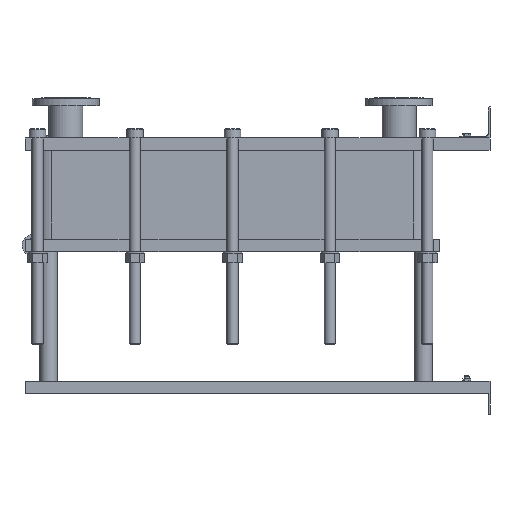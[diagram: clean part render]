
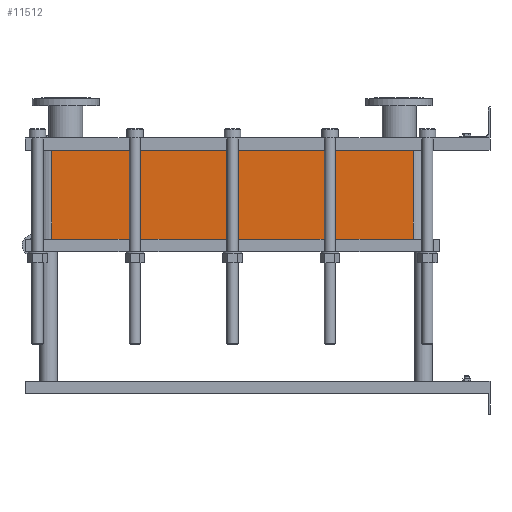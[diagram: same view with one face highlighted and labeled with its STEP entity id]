
A CAD part, left-side view. The second image highlights one B-rep face of the part: STEP entity #11512.
In plain terms, the highlighted planar face has unit normal (-1, 0, 0).
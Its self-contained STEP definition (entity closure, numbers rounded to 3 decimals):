
#1129=LINE('',#23232,#2102);
#1130=LINE('',#23236,#2103);
#1131=LINE('',#23238,#2104);
#1132=LINE('',#23239,#2105);
#2102=VECTOR('',#15887,10.);
#2103=VECTOR('',#15892,10.);
#2104=VECTOR('',#15893,10.);
#2105=VECTOR('',#15894,10.);
#3267=FACE_OUTER_BOUND('',#4093,.T.);
#4093=EDGE_LOOP('',(#10103,#10104,#10105,#10106));
#5642=VERTEX_POINT('',#23229);
#5643=VERTEX_POINT('',#23231);
#5644=VERTEX_POINT('',#23235);
#5645=VERTEX_POINT('',#23237);
#7159=EDGE_CURVE('',#5643,#5642,#1129,.T.);
#7161=EDGE_CURVE('',#5642,#5644,#1130,.T.);
#7162=EDGE_CURVE('',#5645,#5644,#1131,.T.);
#7163=EDGE_CURVE('',#5645,#5643,#1132,.T.);
#10103=ORIENTED_EDGE('',*,*,#7161,.T.);
#10104=ORIENTED_EDGE('',*,*,#7162,.F.);
#10105=ORIENTED_EDGE('',*,*,#7163,.T.);
#10106=ORIENTED_EDGE('',*,*,#7159,.T.);
#10857=PLANE('',#12751);
#11512=ADVANCED_FACE('',(#3267),#10857,.T.);
#12751=AXIS2_PLACEMENT_3D('',#23234,#15890,#15891);
#15887=DIRECTION('',(0.,0.,-1.));
#15890=DIRECTION('center_axis',(-1.,0.,0.));
#15891=DIRECTION('ref_axis',(0.,1.,0.));
#15892=DIRECTION('',(0.,-1.,0.));
#15893=DIRECTION('',(0.,0.,-1.));
#15894=DIRECTION('',(0.,1.,0.));
#23229=CARTESIAN_POINT('',(-200.,1414.,-286.35));
#23231=CARTESIAN_POINT('',(-200.,1414.,0.));
#23232=CARTESIAN_POINT('',(-200.,1414.,0.));
#23234=CARTESIAN_POINT('Origin',(-200.,248.,0.));
#23235=CARTESIAN_POINT('',(-200.,248.,-286.35));
#23236=CARTESIAN_POINT('',(-200.,539.5,-286.35));
#23237=CARTESIAN_POINT('',(-200.,248.,0.));
#23238=CARTESIAN_POINT('',(-200.,248.,0.));
#23239=CARTESIAN_POINT('',(-200.,248.,0.));
